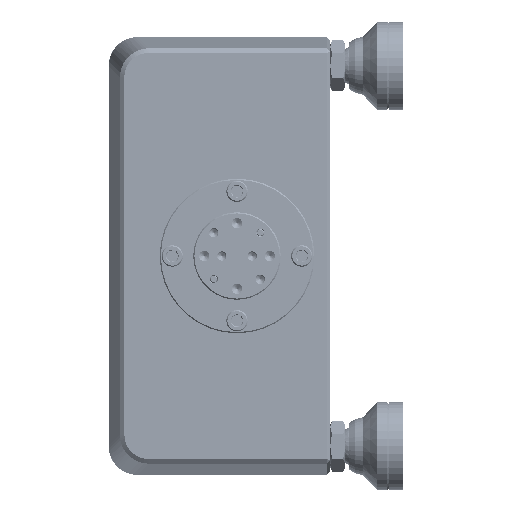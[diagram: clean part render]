
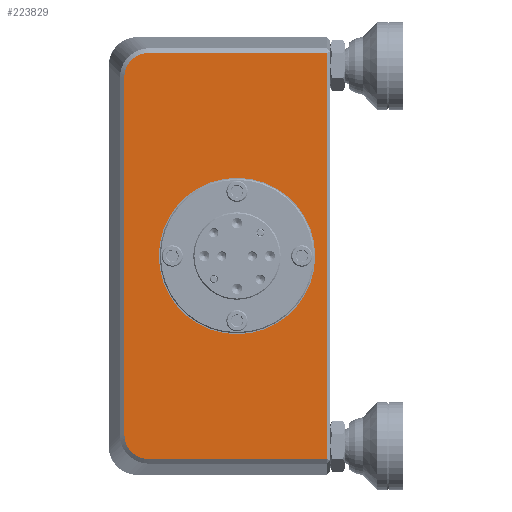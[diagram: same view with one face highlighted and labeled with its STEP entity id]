
A CAD part, left-side view. The second image highlights one B-rep face of the part: STEP entity #223829.
In plain terms, the highlighted planar face has unit normal (-1, 0, 0).
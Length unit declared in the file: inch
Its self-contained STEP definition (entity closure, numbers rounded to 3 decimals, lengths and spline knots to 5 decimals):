
#1657 = EDGE_LOOP ( 'NONE', ( #318077, #274503, #175596, #4663, #272875, #20282 ) ) ;
#4663 = ORIENTED_EDGE ( 'NONE', *, *, #35963, .T. ) ;
#7491 = CARTESIAN_POINT ( 'NONE',  ( -0.75, 0.81508, -1.55864 ) ) ;
#9373 = VERTEX_POINT ( 'NONE', #70548 ) ;
#15092 = CIRCLE ( 'NONE', #200412, 0.67 ) ;
#19032 = CARTESIAN_POINT ( 'NONE',  ( -0.75, 0.66114, 1.73464 ) ) ;
#20282 = ORIENTED_EDGE ( 'NONE', *, *, #291242, .T. ) ;
#23525 = EDGE_CURVE ( 'NONE', #183502, #9373, #112061, .T. ) ;
#35963 = EDGE_CURVE ( 'NONE', #140118, #183502, #293374, .T. ) ;
#49641 = VERTEX_POINT ( 'NONE', #203405 ) ;
#51449 = VERTEX_POINT ( 'NONE', #277889 ) ;
#53971 = CARTESIAN_POINT ( 'NONE',  ( -0.75, 0.81508, -1.53116 ) ) ;
#61041 = VERTEX_POINT ( 'NONE', #313270 ) ;
#63052 = VERTEX_POINT ( 'NONE', #144915 ) ;
#63961 = CARTESIAN_POINT ( 'NONE',  ( -0.75, 0.81508, 1.5587 ) ) ;
#69365 = VECTOR ( 'NONE', #316942, 39.37008 ) ;
#70548 = CARTESIAN_POINT ( 'NONE',  ( -0.75, 0.81508, 1.53116 ) ) ;
#74549 = CARTESIAN_POINT ( 'NONE',  ( -0.75, 0., 0. ) ) ;
#76314 = CARTESIAN_POINT ( 'NONE',  ( -0.75, 0.60616, 1.74008 ) ) ;
#79462 = EDGE_CURVE ( 'NONE', #49641, #140118, #114574, .T. ) ;
#80950 = CARTESIAN_POINT ( 'NONE',  ( -0.75, -0.15, 0. ) ) ;
#85452 = CARTESIAN_POINT ( 'NONE',  ( -0.75, 0.78885, -1.63662 ) ) ;
#95179 = VERTEX_POINT ( 'NONE', #312267 ) ;
#95307 = CARTESIAN_POINT ( 'NONE',  ( -0.75, 0.78884, 1.63662 ) ) ;
#97824 = DIRECTION ( 'NONE',  ( 0., 0., -1. ) ) ;
#107063 = CARTESIAN_POINT ( 'NONE',  ( -0.75, 0.6337, -1.74008 ) ) ;
#107468 = VECTOR ( 'NONE', #97824, 39.37008 ) ;
#111908 = EDGE_CURVE ( 'NONE', #63052, #51449, #15092, .T. ) ;
#112061 = B_SPLINE_CURVE_WITH_KNOTS ( 'NONE', 3,
 ( #141793, #145049, #19032, #221414, #218149, #322514, #95307, #294415, #63961, #196427 ),
 .UNSPECIFIED., .F., .F.,
 ( 4, 2, 2, 2, 4 ),
 ( 0., 0.25, 0.5, 0.75, 1. ),
 .UNSPECIFIED. ) ;
#114574 = LINE ( 'NONE', #215809, #69365 ) ;
#119088 = DIRECTION ( 'NONE',  ( 0., 1., 0. ) ) ;
#119715 = LINE ( 'NONE', #124653, #318392 ) ;
#124653 = CARTESIAN_POINT ( 'NONE',  ( -0.75, 0., -1.74008 ) ) ;
#128557 = ORIENTED_EDGE ( 'NONE', *, *, #176132, .F. ) ;
#133246 = B_SPLINE_CURVE_WITH_KNOTS ( 'NONE', 3,
 ( #53971, #7491, #135110, #85452, #233150, #258016, #155125, #209824, #107063, #259663 ),
 .UNSPECIFIED., .F., .F.,
 ( 4, 2, 2, 2, 4 ),
 ( 0., 0.25, 0.5, 0.75, 1. ),
 .UNSPECIFIED. ) ;
#135110 = CARTESIAN_POINT ( 'NONE',  ( -0.75, 0.80964, -1.58614 ) ) ;
#140118 = VERTEX_POINT ( 'NONE', #264075 ) ;
#141793 = CARTESIAN_POINT ( 'NONE',  ( -0.75, 0.60616, 1.74008 ) ) ;
#144915 = CARTESIAN_POINT ( 'NONE',  ( -0.75, -0.15, -0.67 ) ) ;
#145049 = CARTESIAN_POINT ( 'NONE',  ( -0.75, 0.63364, 1.74008 ) ) ;
#146922 = CIRCLE ( 'NONE', #215186, 0.67 ) ;
#147441 = DIRECTION ( 'NONE',  ( 1., 0., 0. ) ) ;
#155125 = CARTESIAN_POINT ( 'NONE',  ( -0.75, 0.71162, -1.71384 ) ) ;
#157186 = DIRECTION ( 'NONE',  ( 0., 0., 1. ) ) ;
#169498 = EDGE_CURVE ( 'NONE', #95179, #61041, #133246, .T. ) ;
#175560 = FACE_OUTER_BOUND ( 'NONE', #1657, .T. ) ;
#175596 = ORIENTED_EDGE ( 'NONE', *, *, #79462, .T. ) ;
#176132 = EDGE_CURVE ( 'NONE', #51449, #63052, #146922, .T. ) ;
#181975 = DIRECTION ( 'NONE',  ( -1., 0., 0. ) ) ;
#183502 = VERTEX_POINT ( 'NONE', #76314 ) ;
#195157 = DIRECTION ( 'NONE',  ( 0., 0., 1. ) ) ;
#195378 = CARTESIAN_POINT ( 'NONE',  ( -0.75, 0., 1.74008 ) ) ;
#196427 = CARTESIAN_POINT ( 'NONE',  ( -0.75, 0.81508, 1.53116 ) ) ;
#200412 = AXIS2_PLACEMENT_3D ( 'NONE', #298021, #216894, #195157 ) ;
#202105 = DIRECTION ( 'NONE',  ( 0., 0., -1. ) ) ;
#203405 = CARTESIAN_POINT ( 'NONE',  ( -0.75, -0.92, -1.74008 ) ) ;
#209824 = CARTESIAN_POINT ( 'NONE',  ( -0.75, 0.66115, -1.73465 ) ) ;
#215186 = AXIS2_PLACEMENT_3D ( 'NONE', #80950, #181975, #157186 ) ;
#215809 = CARTESIAN_POINT ( 'NONE',  ( -0.75, -0.92, 0. ) ) ;
#216894 = DIRECTION ( 'NONE',  ( -1., 0., 0. ) ) ;
#218149 = CARTESIAN_POINT ( 'NONE',  ( -0.75, 0.73485, 1.69836 ) ) ;
#221414 = CARTESIAN_POINT ( 'NONE',  ( -0.75, 0.71162, 1.71385 ) ) ;
#223829 = ADVANCED_FACE ( 'NONE', ( #175560, #301672 ), #275160, .F. ) ;
#233150 = CARTESIAN_POINT ( 'NONE',  ( -0.75, 0.77336, -1.65985 ) ) ;
#239358 = ORIENTED_EDGE ( 'NONE', *, *, #111908, .F. ) ;
#255201 = EDGE_CURVE ( 'NONE', #61041, #49641, #119715, .T. ) ;
#258016 = CARTESIAN_POINT ( 'NONE',  ( -0.75, 0.73486, -1.69836 ) ) ;
#259663 = CARTESIAN_POINT ( 'NONE',  ( -0.75, 0.60616, -1.74008 ) ) ;
#264075 = CARTESIAN_POINT ( 'NONE',  ( -0.75, -0.92, 1.74008 ) ) ;
#272875 = ORIENTED_EDGE ( 'NONE', *, *, #23525, .T. ) ;
#274503 = ORIENTED_EDGE ( 'NONE', *, *, #255201, .T. ) ;
#275160 = PLANE ( 'NONE',  #295120 ) ;
#276951 = CARTESIAN_POINT ( 'NONE',  ( -0.75, 0.81508, 0. ) ) ;
#277889 = CARTESIAN_POINT ( 'NONE',  ( -0.75, -0.15, 0.67 ) ) ;
#290972 = EDGE_LOOP ( 'NONE', ( #128557, #239358 ) ) ;
#291242 = EDGE_CURVE ( 'NONE', #9373, #95179, #325023, .T. ) ;
#293374 = LINE ( 'NONE', #195378, #322308 ) ;
#294415 = CARTESIAN_POINT ( 'NONE',  ( -0.75, 0.80965, 1.58615 ) ) ;
#295120 = AXIS2_PLACEMENT_3D ( 'NONE', #74549, #147441, #202105 ) ;
#298021 = CARTESIAN_POINT ( 'NONE',  ( -0.75, -0.15, 0. ) ) ;
#301672 = FACE_BOUND ( 'NONE', #290972, .T. ) ;
#312267 = CARTESIAN_POINT ( 'NONE',  ( -0.75, 0.81508, -1.53116 ) ) ;
#313270 = CARTESIAN_POINT ( 'NONE',  ( -0.75, 0.60616, -1.74008 ) ) ;
#316942 = DIRECTION ( 'NONE',  ( 0., 0., 1. ) ) ;
#318077 = ORIENTED_EDGE ( 'NONE', *, *, #169498, .T. ) ;
#318392 = VECTOR ( 'NONE', #322079, 39.37008 ) ;
#322079 = DIRECTION ( 'NONE',  ( 0., -1., 0. ) ) ;
#322308 = VECTOR ( 'NONE', #119088, 39.37008 ) ;
#322514 = CARTESIAN_POINT ( 'NONE',  ( -0.75, 0.77336, 1.65986 ) ) ;
#325023 = LINE ( 'NONE', #276951, #107468 ) ;
